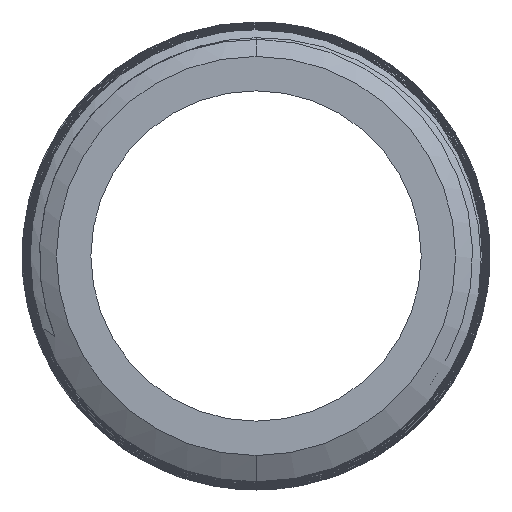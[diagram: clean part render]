
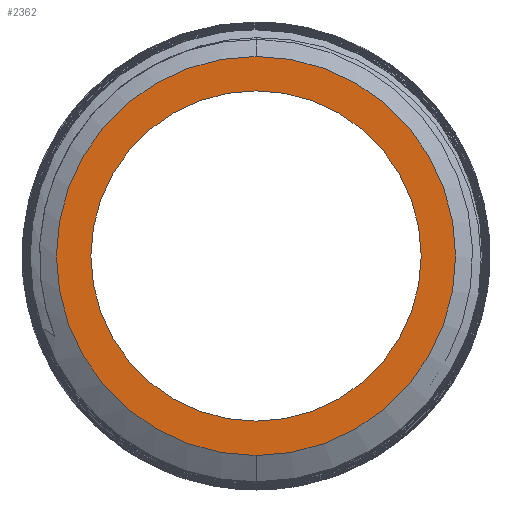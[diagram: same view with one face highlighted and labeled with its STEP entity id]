
A CAD part, left-side view. The second image highlights one B-rep face of the part: STEP entity #2362.
In plain terms, the highlighted planar face has unit normal (-1, 0, 0).
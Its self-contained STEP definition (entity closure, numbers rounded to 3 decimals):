
#14 = ORIENTED_EDGE ( 'NONE', *, *, #6048, .F. ) ;
#219 = CIRCLE ( 'NONE', #1340, 3.6 ) ;
#325 = DIRECTION ( 'NONE',  ( 0., 0., 1. ) ) ;
#398 = CARTESIAN_POINT ( 'NONE',  ( -35., 3.6, 0. ) ) ;
#553 = DIRECTION ( 'NONE',  ( 1., 0., 0. ) ) ;
#691 = VERTEX_POINT ( 'NONE', #4220 ) ;
#723 = ORIENTED_EDGE ( 'NONE', *, *, #1981, .T. ) ;
#1340 = AXIS2_PLACEMENT_3D ( 'NONE', #4459, #5088, #325 ) ;
#1515 = CARTESIAN_POINT ( 'NONE',  ( -35., 0., 0. ) ) ;
#1574 = AXIS2_PLACEMENT_3D ( 'NONE', #6186, #4612, #1942 ) ;
#1642 = EDGE_LOOP ( 'NONE', ( #14, #2276 ) ) ;
#1888 = DIRECTION ( 'NONE',  ( -1., 0., 0. ) ) ;
#1942 = DIRECTION ( 'NONE',  ( 0., 0., 1. ) ) ;
#1981 = EDGE_CURVE ( 'NONE', #5209, #4557, #5548, .T. ) ;
#2232 = CIRCLE ( 'NONE', #1574, 3.6 ) ;
#2276 = ORIENTED_EDGE ( 'NONE', *, *, #5680, .F. ) ;
#2362 = ADVANCED_FACE ( 'NONE', ( #5163, #5200 ), #4757, .F. ) ;
#2877 = DIRECTION ( 'NONE',  ( -1., 0., 0. ) ) ;
#3150 = VERTEX_POINT ( 'NONE', #5111 ) ;
#3627 = DIRECTION ( 'NONE',  ( 0., 0., 1. ) ) ;
#3662 = CIRCLE ( 'NONE', #4535, 4.35 ) ;
#4002 = CARTESIAN_POINT ( 'NONE',  ( -35., 0., 4.35 ) ) ;
#4201 = DIRECTION ( 'NONE',  ( 0., 0., -1. ) ) ;
#4220 = CARTESIAN_POINT ( 'NONE',  ( -35., 0., -3.6 ) ) ;
#4431 = AXIS2_PLACEMENT_3D ( 'NONE', #4952, #2877, #5019 ) ;
#4459 = CARTESIAN_POINT ( 'NONE',  ( -35., 0., 0. ) ) ;
#4535 = AXIS2_PLACEMENT_3D ( 'NONE', #1515, #1888, #3627 ) ;
#4557 = VERTEX_POINT ( 'NONE', #6384 ) ;
#4612 = DIRECTION ( 'NONE',  ( -1., 0., 0. ) ) ;
#4757 = PLANE ( 'NONE',  #6668 ) ;
#4952 = CARTESIAN_POINT ( 'NONE',  ( -35., 0., 0. ) ) ;
#5019 = DIRECTION ( 'NONE',  ( 0., 0., 1. ) ) ;
#5088 = DIRECTION ( 'NONE',  ( -1., 0., 0. ) ) ;
#5111 = CARTESIAN_POINT ( 'NONE',  ( -35., 0., 3.6 ) ) ;
#5161 = EDGE_CURVE ( 'NONE', #4557, #5209, #3662, .T. ) ;
#5163 = FACE_BOUND ( 'NONE', #1642, .T. ) ;
#5200 = FACE_OUTER_BOUND ( 'NONE', #6726, .T. ) ;
#5209 = VERTEX_POINT ( 'NONE', #4002 ) ;
#5548 = CIRCLE ( 'NONE', #4431, 4.35 ) ;
#5643 = ORIENTED_EDGE ( 'NONE', *, *, #5161, .T. ) ;
#5680 = EDGE_CURVE ( 'NONE', #691, #3150, #2232, .T. ) ;
#6048 = EDGE_CURVE ( 'NONE', #3150, #691, #219, .T. ) ;
#6186 = CARTESIAN_POINT ( 'NONE',  ( -35., 0., 0. ) ) ;
#6384 = CARTESIAN_POINT ( 'NONE',  ( -35., 0., -4.35 ) ) ;
#6668 = AXIS2_PLACEMENT_3D ( 'NONE', #398, #553, #4201 ) ;
#6726 = EDGE_LOOP ( 'NONE', ( #5643, #723 ) ) ;
